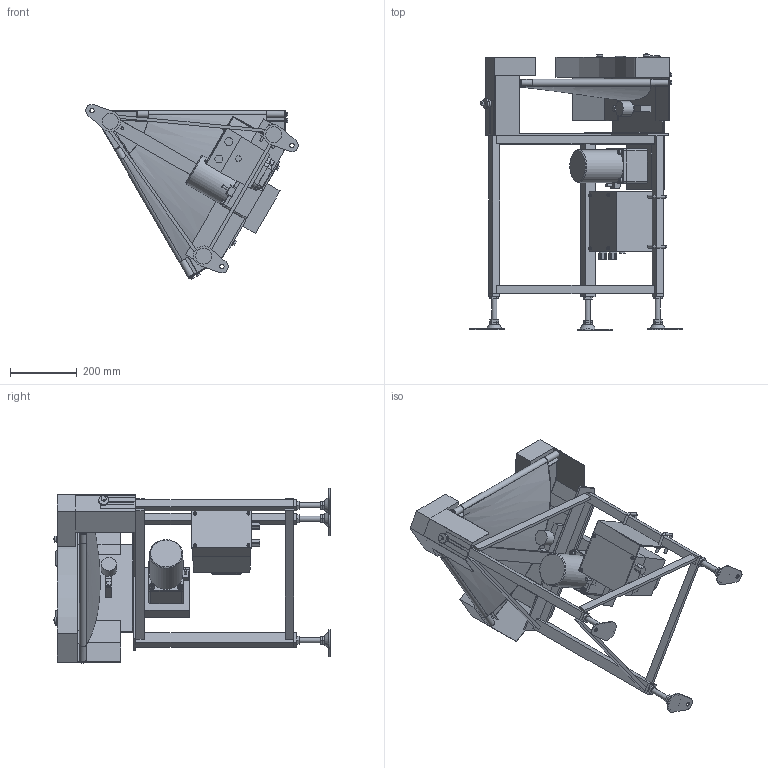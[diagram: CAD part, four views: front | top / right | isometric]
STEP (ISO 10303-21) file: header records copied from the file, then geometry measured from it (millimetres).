
FILE_DESCRIPTION (( 'STEP AP214' ), '1' );
FILE_NAME ('FFBC3-UD-309-300-60°-L-IV-60.STEP', '2023-04-18T07:24:40', ( '' ), ( '' ), 'SwSTEP 2.0', 'SolidWorks 2017', '' );
FILE_SCHEMA (( 'AUTOMOTIVE_DESIGN' ));
Length unit declared in the file: millimetre
Products named in the file (1): FFBC3-UD-309-300-60°-L-IV-60
Bounding box: 637.5 x 827.92 x 525.13 mm (x, y, z)
Volume: 15667091 mm3; surface area: 2541917.1 mm2
Topology: 55 solids, 56 shells, 1013 faces, 2322 edges, 1500 vertices
Faces by surface type: plane 736, cylinder 199, bspline 45, cone 19, torus 12, sphere 2
Full cylindrical faces by diameter (mm): 4 x4, 4.2 x2, 4.5 x1, 5 x4, 5.9 x4, 7 x1, 7.6 x4, 7.8 x1, 8 x16, 8.4 x4, 8.5 x8, 9 x6, 12.5 x4, 13 x11, 13.8 x1, 15 x4, 16 x9, 17 x9, 18 x4, 20 x3, 25 x1, 30 x2, 42 x1, 45 x1, 99 x1
Entity records: 46934 total; most frequent: CARTESIAN_POINT 13069, DIRECTION 4405, ORIENTED_EDGE 4286, EDGE_CURVE 2143, VECTOR 1541, LINE 1541, VERTEX_POINT 1464, AXIS2_PLACEMENT_3D 1432
